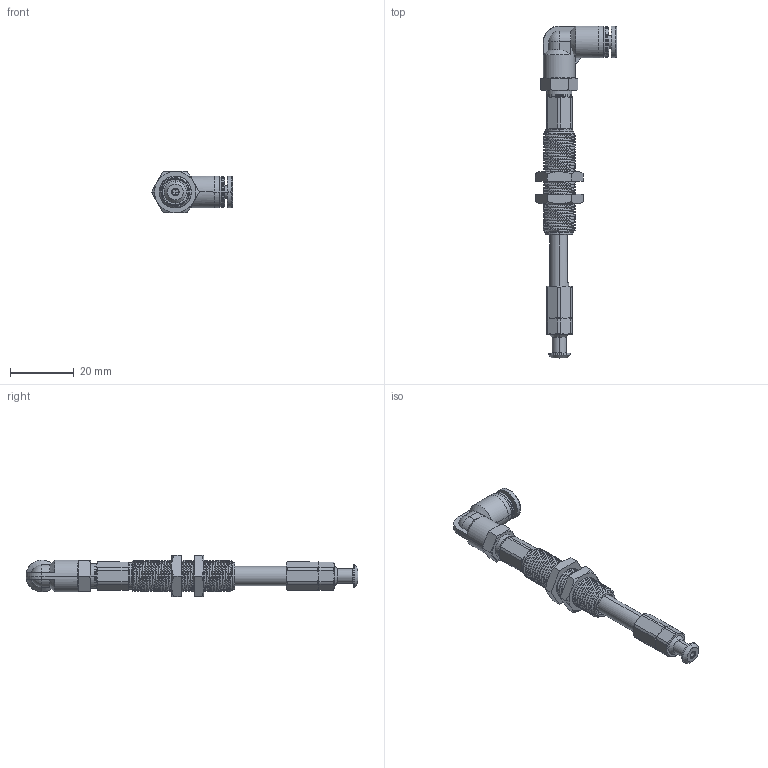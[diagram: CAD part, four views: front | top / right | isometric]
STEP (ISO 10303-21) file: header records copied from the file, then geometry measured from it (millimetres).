
FILE_DESCRIPTION (( 'STEP AP203' ), '1' );
FILE_NAME ('BLN04-4BT15NK67-M5-Z耳7耳4.5-耳4_asm〞〞TOC.STEP', '2024-10-17T03:14:24', ( '' ), ( '' ), 'SwSTEP 2.0', 'SolidWorks 2022', '' );
FILE_SCHEMA (( 'CONFIG_CONTROL_DESIGN' ));
Length unit declared in the file: millimetre
Products named in the file (1): BLN04-4BT15NK67-M5-Zφ7φ4.5-φ4_asm——TOC
Bounding box: 25.51 x 104.3 x 13 mm (x, y, z)
Surface area: 5443.2 mm2 (no closed solid volume)
Topology: 0 solids, 13 shells, 314 faces, 854 edges, 554 vertices
Faces by surface type: cylinder 110, cone 109, plane 68, bspline 19, torus 4, sphere 4
Entity records: 18466 total; most frequent: CARTESIAN_POINT 11056, ORIENTED_EDGE 1565, DIRECTION 1383, EDGE_CURVE 853, AXIS2_PLACEMENT_3D 570, VERTEX_POINT 554, B_SPLINE_CURVE_WITH_KNOTS 336, EDGE_LOOP 334
